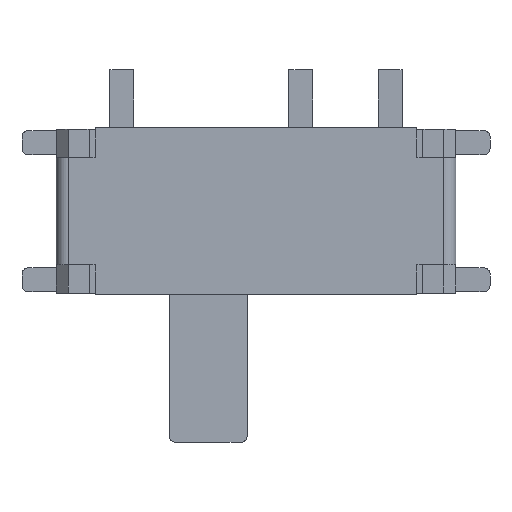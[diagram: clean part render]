
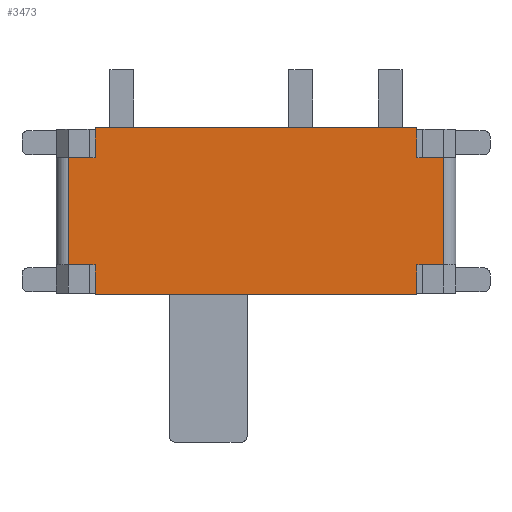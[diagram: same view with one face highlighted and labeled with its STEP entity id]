
A CAD part, top view. The second image highlights one B-rep face of the part: STEP entity #3473.
In plain terms, the highlighted planar face has unit normal (0, 0, 1).
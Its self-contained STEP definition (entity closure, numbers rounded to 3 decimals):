
#149 = LINE ( 'NONE', #13708, #11556 ) ;
#601 = DIRECTION ( 'NONE',  ( 1., 0., 0. ) ) ;
#626 = LINE ( 'NONE', #12757, #10123 ) ;
#685 = EDGE_CURVE ( 'NONE', #1028, #2568, #626, .T. ) ;
#862 = CARTESIAN_POINT ( 'NONE',  ( 2.7, -0.675, 0. ) ) ;
#893 = CARTESIAN_POINT ( 'NONE',  ( -3.149, -0.675, 0. ) ) ;
#1028 = VERTEX_POINT ( 'NONE', #10103 ) ;
#1066 = LINE ( 'NONE', #6502, #5670 ) ;
#1112 = VERTEX_POINT ( 'NONE', #13077 ) ;
#1204 = DIRECTION ( 'NONE',  ( 0., 1., 0. ) ) ;
#1217 = ORIENTED_EDGE ( 'NONE', *, *, #1788, .F. ) ;
#1589 = LINE ( 'NONE', #4032, #15790 ) ;
#1671 = EDGE_CURVE ( 'NONE', #1112, #15360, #1066, .T. ) ;
#1686 = DIRECTION ( 'NONE',  ( -1., 0., 0. ) ) ;
#1691 = EDGE_CURVE ( 'NONE', #9770, #14924, #1589, .T. ) ;
#1788 = EDGE_CURVE ( 'NONE', #1028, #4337, #9497, .T. ) ;
#2498 = VERTEX_POINT ( 'NONE', #9888 ) ;
#2568 = VERTEX_POINT ( 'NONE', #14473 ) ;
#2948 = CARTESIAN_POINT ( 'NONE',  ( 3.75, 1.125, 0. ) ) ;
#3335 = DIRECTION ( 'NONE',  ( 0., -1., 0. ) ) ;
#3473 = ADVANCED_FACE ( 'NONE', ( #11605 ), #10208, .T. ) ;
#3646 = VECTOR ( 'NONE', #1686, 1000. ) ;
#3926 = CARTESIAN_POINT ( 'NONE',  ( -2.7, 1.125, 0. ) ) ;
#4032 = CARTESIAN_POINT ( 'NONE',  ( 2.7, 0.225, 0. ) ) ;
#4090 = VERTEX_POINT ( 'NONE', #893 ) ;
#4337 = VERTEX_POINT ( 'NONE', #11480 ) ;
#4411 = CARTESIAN_POINT ( 'NONE',  ( 2.7, 1.625, 0. ) ) ;
#4800 = ORIENTED_EDGE ( 'NONE', *, *, #14896, .F. ) ;
#4859 = AXIS2_PLACEMENT_3D ( 'NONE', #13346, #9311, #6569 ) ;
#5029 = ORIENTED_EDGE ( 'NONE', *, *, #17410, .T. ) ;
#5051 = VECTOR ( 'NONE', #14729, 1000. ) ;
#5187 = DIRECTION ( 'NONE',  ( 1., 0., 0. ) ) ;
#5269 = ORIENTED_EDGE ( 'NONE', *, *, #14079, .T. ) ;
#5388 = DIRECTION ( 'NONE',  ( 0., 1., 0. ) ) ;
#5526 = EDGE_CURVE ( 'NONE', #1112, #4090, #9892, .T. ) ;
#5670 = VECTOR ( 'NONE', #5187, 1000. ) ;
#5795 = CARTESIAN_POINT ( 'NONE',  ( 3.75, -0.675, 0. ) ) ;
#6048 = EDGE_CURVE ( 'NONE', #4337, #4090, #7106, .T. ) ;
#6058 = DIRECTION ( 'NONE',  ( 1., 0., 0. ) ) ;
#6112 = VECTOR ( 'NONE', #3335, 1000. ) ;
#6502 = CARTESIAN_POINT ( 'NONE',  ( 0., 1.125, 0. ) ) ;
#6569 = DIRECTION ( 'NONE',  ( 1., 0., 0. ) ) ;
#6599 = CARTESIAN_POINT ( 'NONE',  ( -2.7, 0.225, 0. ) ) ;
#6683 = ORIENTED_EDGE ( 'NONE', *, *, #5526, .T. ) ;
#6754 = DIRECTION ( 'NONE',  ( 0., 1., 0. ) ) ;
#7106 = LINE ( 'NONE', #13986, #3646 ) ;
#7195 = VERTEX_POINT ( 'NONE', #12547 ) ;
#8267 = CARTESIAN_POINT ( 'NONE',  ( -2.7, 0.225, 0. ) ) ;
#8297 = EDGE_LOOP ( 'NONE', ( #5029, #10240, #13281, #9389, #13440, #4800, #16113, #6683, #17077, #1217, #11407, #5269 ) ) ;
#8336 = LINE ( 'NONE', #2948, #10721 ) ;
#8388 = CARTESIAN_POINT ( 'NONE',  ( -3.149, 1.125, 0. ) ) ;
#9023 = VECTOR ( 'NONE', #17449, 1000. ) ;
#9219 = VERTEX_POINT ( 'NONE', #11371 ) ;
#9311 = DIRECTION ( 'NONE',  ( 0., 0., 1. ) ) ;
#9389 = ORIENTED_EDGE ( 'NONE', *, *, #1691, .T. ) ;
#9435 = LINE ( 'NONE', #6599, #5051 ) ;
#9497 = LINE ( 'NONE', #8267, #9023 ) ;
#9748 = DIRECTION ( 'NONE',  ( -1., 0., 0. ) ) ;
#9770 = VERTEX_POINT ( 'NONE', #14410 ) ;
#9888 = CARTESIAN_POINT ( 'NONE',  ( -2.7, 1.625, 0. ) ) ;
#9892 = LINE ( 'NONE', #8388, #6112 ) ;
#10103 = CARTESIAN_POINT ( 'NONE',  ( -2.7, -1.175, 0. ) ) ;
#10123 = VECTOR ( 'NONE', #6058, 1000. ) ;
#10208 = PLANE ( 'NONE',  #4859 ) ;
#10240 = ORIENTED_EDGE ( 'NONE', *, *, #10587, .T. ) ;
#10520 = CARTESIAN_POINT ( 'NONE',  ( 3.149, -0.675, 0. ) ) ;
#10587 = EDGE_CURVE ( 'NONE', #7195, #9219, #12001, .T. ) ;
#10721 = VECTOR ( 'NONE', #9748, 1000. ) ;
#10734 = VECTOR ( 'NONE', #601, 1000. ) ;
#10895 = DIRECTION ( 'NONE',  ( -1., 0., 0. ) ) ;
#11371 = CARTESIAN_POINT ( 'NONE',  ( 3.149, 1.125, 0. ) ) ;
#11407 = ORIENTED_EDGE ( 'NONE', *, *, #685, .T. ) ;
#11480 = CARTESIAN_POINT ( 'NONE',  ( -2.7, -0.675, 0. ) ) ;
#11556 = VECTOR ( 'NONE', #10895, 1000. ) ;
#11605 = FACE_OUTER_BOUND ( 'NONE', #8297, .T. ) ;
#12001 = LINE ( 'NONE', #10520, #12252 ) ;
#12252 = VECTOR ( 'NONE', #1204, 1000. ) ;
#12547 = CARTESIAN_POINT ( 'NONE',  ( 3.149, -0.675, 0. ) ) ;
#12757 = CARTESIAN_POINT ( 'NONE',  ( -3.35, -1.175, 0. ) ) ;
#13077 = CARTESIAN_POINT ( 'NONE',  ( -3.149, 1.125, 0. ) ) ;
#13281 = ORIENTED_EDGE ( 'NONE', *, *, #17360, .T. ) ;
#13346 = CARTESIAN_POINT ( 'NONE',  ( 0., 0.225, 0. ) ) ;
#13440 = ORIENTED_EDGE ( 'NONE', *, *, #17313, .T. ) ;
#13447 = VECTOR ( 'NONE', #5388, 1000. ) ;
#13708 = CARTESIAN_POINT ( 'NONE',  ( -3.35, 1.625, 0. ) ) ;
#13986 = CARTESIAN_POINT ( 'NONE',  ( -3.75, -0.675, 0. ) ) ;
#14079 = EDGE_CURVE ( 'NONE', #2568, #15590, #14901, .T. ) ;
#14410 = CARTESIAN_POINT ( 'NONE',  ( 2.7, 1.125, 0. ) ) ;
#14473 = CARTESIAN_POINT ( 'NONE',  ( 2.7, -1.175, 0. ) ) ;
#14729 = DIRECTION ( 'NONE',  ( 0., 1., 0. ) ) ;
#14896 = EDGE_CURVE ( 'NONE', #15360, #2498, #9435, .T. ) ;
#14901 = LINE ( 'NONE', #17465, #13447 ) ;
#14924 = VERTEX_POINT ( 'NONE', #4411 ) ;
#15360 = VERTEX_POINT ( 'NONE', #3926 ) ;
#15590 = VERTEX_POINT ( 'NONE', #862 ) ;
#15790 = VECTOR ( 'NONE', #6754, 1000. ) ;
#16113 = ORIENTED_EDGE ( 'NONE', *, *, #1671, .F. ) ;
#16900 = LINE ( 'NONE', #5795, #10734 ) ;
#17077 = ORIENTED_EDGE ( 'NONE', *, *, #6048, .F. ) ;
#17313 = EDGE_CURVE ( 'NONE', #14924, #2498, #149, .T. ) ;
#17360 = EDGE_CURVE ( 'NONE', #9219, #9770, #8336, .T. ) ;
#17410 = EDGE_CURVE ( 'NONE', #15590, #7195, #16900, .T. ) ;
#17449 = DIRECTION ( 'NONE',  ( 0., 1., 0. ) ) ;
#17465 = CARTESIAN_POINT ( 'NONE',  ( 2.7, 0.225, 0. ) ) ;
